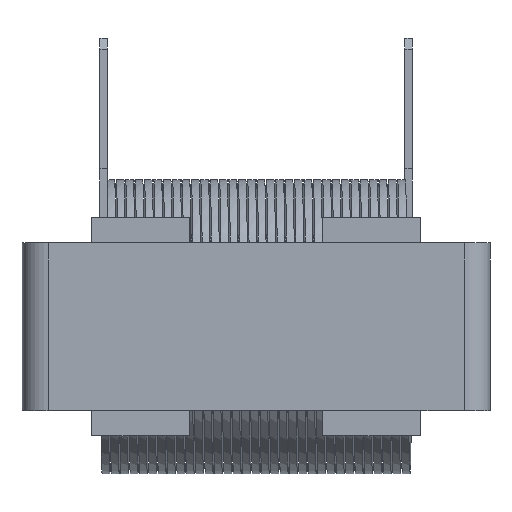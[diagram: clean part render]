
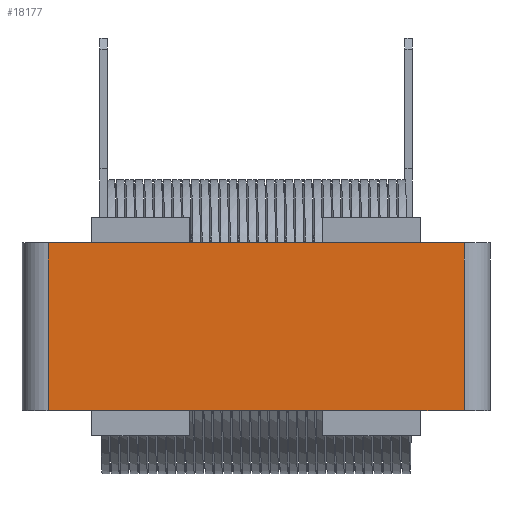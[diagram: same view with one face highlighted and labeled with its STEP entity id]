
A CAD part, left-side view. The second image highlights one B-rep face of the part: STEP entity #18177.
In plain terms, the highlighted planar face has unit normal (-1, 0, 0).
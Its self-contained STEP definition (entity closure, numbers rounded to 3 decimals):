
#392 = CARTESIAN_POINT ( 'NONE',  ( -21.78, 40.2, 7.7 ) ) ;
#824 = VECTOR ( 'NONE', #20768, 1000. ) ;
#862 = EDGE_CURVE ( 'NONE', #17008, #7902, #6281, .T. ) ;
#1314 = CARTESIAN_POINT ( 'NONE',  ( -21.78, 21.1, 7.7 ) ) ;
#1506 = FACE_OUTER_BOUND ( 'NONE', #3129, .T. ) ;
#2193 = DIRECTION ( 'NONE',  ( 0., 0., -1. ) ) ;
#3129 = EDGE_LOOP ( 'NONE', ( #21245, #19373, #13372, #18522 ) ) ;
#4664 = DIRECTION ( 'NONE',  ( 1., 0., 0. ) ) ;
#5015 = LINE ( 'NONE', #392, #19385 ) ;
#5572 = VERTEX_POINT ( 'NONE', #6259 ) ;
#6259 = CARTESIAN_POINT ( 'NONE',  ( -21.78, 40.2, -7.7 ) ) ;
#6281 = LINE ( 'NONE', #13346, #17929 ) ;
#7902 = VERTEX_POINT ( 'NONE', #12265 ) ;
#8319 = PLANE ( 'NONE',  #17895 ) ;
#9767 = DIRECTION ( 'NONE',  ( 0., 0., -1. ) ) ;
#9827 = EDGE_CURVE ( 'NONE', #21000, #5572, #5015, .T. ) ;
#11305 = CARTESIAN_POINT ( 'NONE',  ( -21.78, 21.1, -7.7 ) ) ;
#12265 = CARTESIAN_POINT ( 'NONE',  ( -21.78, 2., -7.7 ) ) ;
#12302 = EDGE_CURVE ( 'NONE', #21000, #17008, #17600, .T. ) ;
#13038 = EDGE_CURVE ( 'NONE', #5572, #7902, #19157, .T. ) ;
#13346 = CARTESIAN_POINT ( 'NONE',  ( -21.78, 2., 7.7 ) ) ;
#13372 = ORIENTED_EDGE ( 'NONE', *, *, #12302, .F. ) ;
#14064 = CARTESIAN_POINT ( 'NONE',  ( -21.78, 2., 7.7 ) ) ;
#16825 = DIRECTION ( 'NONE',  ( 0., 0., -1. ) ) ;
#17008 = VERTEX_POINT ( 'NONE', #14064 ) ;
#17600 = LINE ( 'NONE', #20690, #824 ) ;
#17895 = AXIS2_PLACEMENT_3D ( 'NONE', #1314, #4664, #16825 ) ;
#17929 = VECTOR ( 'NONE', #9767, 1000. ) ;
#18177 = ADVANCED_FACE ( 'NONE', ( #1506 ), #8319, .F. ) ;
#18522 = ORIENTED_EDGE ( 'NONE', *, *, #9827, .T. ) ;
#18613 = VECTOR ( 'NONE', #21817, 1000. ) ;
#19157 = LINE ( 'NONE', #11305, #18613 ) ;
#19373 = ORIENTED_EDGE ( 'NONE', *, *, #862, .F. ) ;
#19385 = VECTOR ( 'NONE', #2193, 1000. ) ;
#20184 = CARTESIAN_POINT ( 'NONE',  ( -21.78, 40.2, 7.7 ) ) ;
#20690 = CARTESIAN_POINT ( 'NONE',  ( -21.78, 21.1, 7.7 ) ) ;
#20768 = DIRECTION ( 'NONE',  ( 0., -1., 0. ) ) ;
#21000 = VERTEX_POINT ( 'NONE', #20184 ) ;
#21245 = ORIENTED_EDGE ( 'NONE', *, *, #13038, .T. ) ;
#21817 = DIRECTION ( 'NONE',  ( 0., -1., 0. ) ) ;
